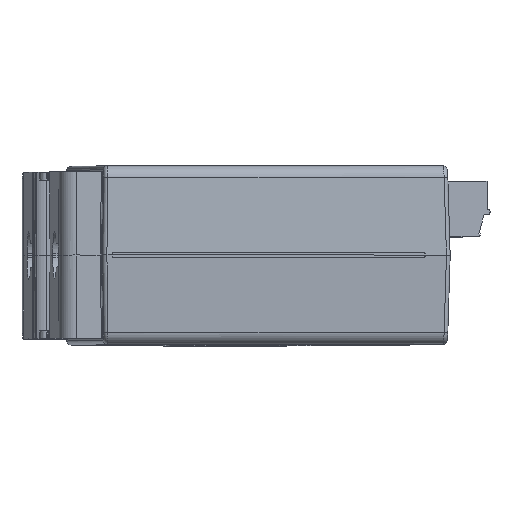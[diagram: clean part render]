
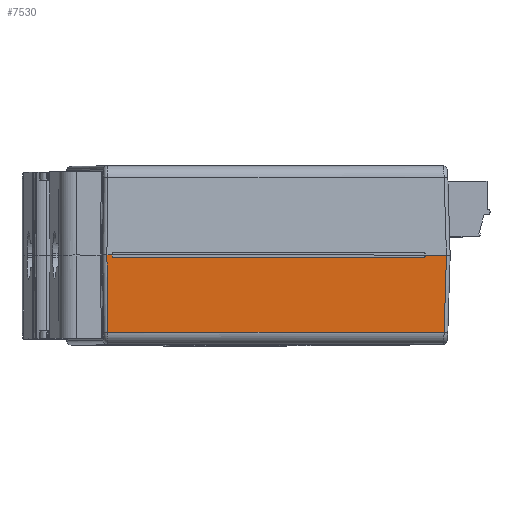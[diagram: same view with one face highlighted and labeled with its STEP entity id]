
A CAD part, top view. The second image highlights one B-rep face of the part: STEP entity #7530.
In plain terms, the highlighted planar face has unit normal (0.081, -0.052, 0.995).
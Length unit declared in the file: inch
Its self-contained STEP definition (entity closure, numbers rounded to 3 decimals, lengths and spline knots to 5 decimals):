
#808=CARTESIAN_POINT('',(-8.64589,0.,-0.216));
#809=VERTEX_POINT('',#808);
#817=CARTESIAN_POINT('',(-8.6071,0.,-0.21915));
#818=VERTEX_POINT('',#817);
#819=CARTESIAN_POINT('',(-8.64589,0.,-0.216));
#820=DIRECTION('',(0.997,0.,-0.081));
#821=VECTOR('',#820,0.03892);
#822=LINE('',#819,#821);
#823=EDGE_CURVE('',#818,#809,#822,.F.);
#1538=CARTESIAN_POINT('',(-5.98996,-0.60823,-0.46382));
#1539=VERTEX_POINT('',#1538);
#1572=CARTESIAN_POINT('',(-5.97151,0.,-0.43334));
#1573=VERTEX_POINT('',#1572);
#1581=CARTESIAN_POINT('',(-5.97151,0.,-0.43334));
#1582=DIRECTION('',(-0.03,-0.998,-0.05));
#1583=VECTOR('',#1582,0.60928);
#1584=LINE('',#1581,#1583);
#1585=EDGE_CURVE('',#1573,#1539,#1584,.T.);
#7366=CARTESIAN_POINT('',(-8.63789,-0.60823,-0.24863));
#7367=VERTEX_POINT('',#7366);
#7375=CARTESIAN_POINT('',(-8.63789,-0.60823,-0.24863));
#7376=DIRECTION('',(-0.013,0.998,0.054));
#7377=VECTOR('',#7376,0.60916);
#7378=LINE('',#7375,#7377);
#7379=EDGE_CURVE('',#7367,#809,#7378,.T.);
#7484=CARTESIAN_POINT('',(-6.31374,-0.68916,-0.44176));
#7485=DIRECTION('',(0.081,-0.052,0.995));
#7486=DIRECTION('',(0.997,0.,-0.081));
#7487=AXIS2_PLACEMENT_3D('',#7484,#7485,#7486);
#7488=PLANE('',#7487);
#7489=ORIENTED_EDGE('',*,*,#1585,.F.);
#7490=CARTESIAN_POINT('',(-6.13738,0.,-0.41986));
#7491=VERTEX_POINT('',#7490);
#7492=CARTESIAN_POINT('',(-6.13738,0.,-0.41986));
#7493=DIRECTION('',(0.997,0.,-0.081));
#7494=VECTOR('',#7493,0.16643);
#7495=LINE('',#7492,#7494);
#7496=EDGE_CURVE('',#7491,#1573,#7495,.T.);
#7497=ORIENTED_EDGE('',*,*,#7496,.F.);
#7498=CARTESIAN_POINT('',(-6.14098,-0.02,-0.42062));
#7499=VERTEX_POINT('',#7498);
#7500=CARTESIAN_POINT('',(-6.13738,0.,-0.41986));
#7501=DIRECTION('',(-0.177,-0.983,-0.037));
#7502=VECTOR('',#7501,0.02034);
#7503=LINE('',#7500,#7502);
#7504=EDGE_CURVE('',#7499,#7491,#7503,.F.);
#7505=ORIENTED_EDGE('',*,*,#7504,.F.);
#7506=CARTESIAN_POINT('',(-8.60367,-0.02,-0.22048));
#7507=VERTEX_POINT('',#7506);
#7508=CARTESIAN_POINT('',(-6.14098,-0.02,-0.42062));
#7509=DIRECTION('',(-0.997,0.,0.081));
#7510=VECTOR('',#7509,2.4708);
#7511=LINE('',#7508,#7510);
#7512=EDGE_CURVE('',#7499,#7507,#7511,.T.);
#7513=ORIENTED_EDGE('',*,*,#7512,.T.);
#7514=CARTESIAN_POINT('',(-8.6071,0.,-0.21915));
#7515=DIRECTION('',(0.169,-0.983,-0.065));
#7516=VECTOR('',#7515,0.02034);
#7517=LINE('',#7514,#7516);
#7518=EDGE_CURVE('',#7507,#818,#7517,.F.);
#7519=ORIENTED_EDGE('',*,*,#7518,.T.);
#7520=ORIENTED_EDGE('',*,*,#823,.T.);
#7521=ORIENTED_EDGE('',*,*,#7379,.F.);
#7522=CARTESIAN_POINT('',(-5.98996,-0.60823,-0.46382));
#7523=DIRECTION('',(-0.997,0.0,0.081));
#7524=VECTOR('',#7523,2.65666);
#7525=LINE('',#7522,#7524);
#7526=EDGE_CURVE('',#1539,#7367,#7525,.T.);
#7527=ORIENTED_EDGE('',*,*,#7526,.F.);
#7528=EDGE_LOOP('',(#7489,#7497,#7505,#7513,#7519,#7520,#7521,#7527));
#7529=FACE_OUTER_BOUND('',#7528,.T.);
#7530=ADVANCED_FACE('',(#7529),#7488,.T.);
